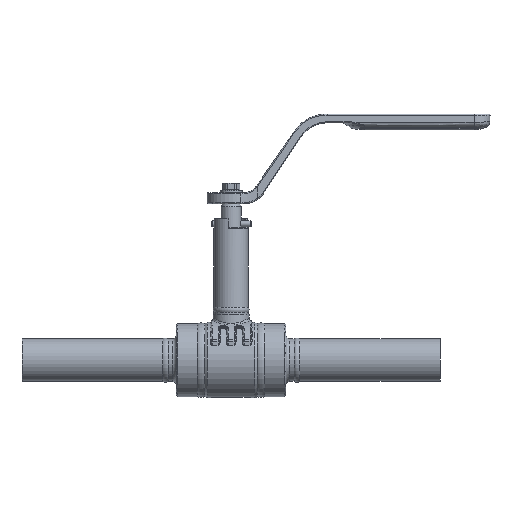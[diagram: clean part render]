
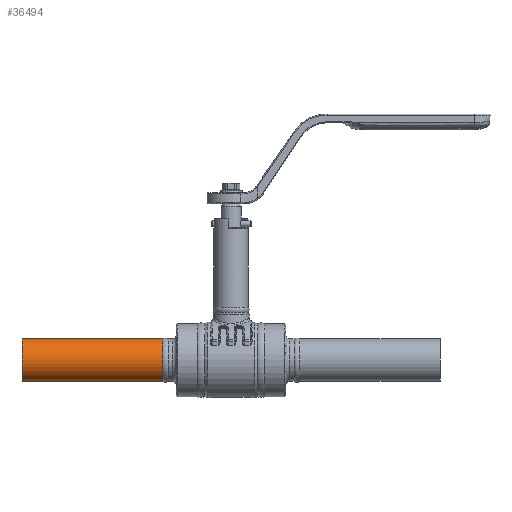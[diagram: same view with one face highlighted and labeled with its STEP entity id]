
A CAD part, front view. The second image highlights one B-rep face of the part: STEP entity #36494.
In plain terms, the highlighted cylindrical face has radius 10.65 mm (diameter 21.3 mm), a partial arc.
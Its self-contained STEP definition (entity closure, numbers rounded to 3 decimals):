
#10698=CARTESIAN_POINT('',(-105.,0.,0.));
#10699=DIRECTION('',(1.,0.,0.));
#10700=DIRECTION('',(0.,0.,1.));
#10701=AXIS2_PLACEMENT_3D('',#10698,#10699,#10700);
#10708=DIRECTION('',(-1.,0.,0.));
#10709=VECTOR('',#10708,70.552);
#10710=CARTESIAN_POINT('',(-34.448,0.,10.65));
#10711=LINE('',#10710,#10709);
#10712=DIRECTION('',(-1.,0.,0.));
#10713=VECTOR('',#10712,70.552);
#10714=CARTESIAN_POINT('',(-34.448,0.,-10.65));
#10715=LINE('',#10714,#10713);
#10754=CARTESIAN_POINT('',(-34.448,0.,0.));
#10755=DIRECTION('',(1.,0.,0.));
#10756=DIRECTION('',(0.,0.,1.));
#10757=AXIS2_PLACEMENT_3D('',#10754,#10755,#10756);
#13036=CARTESIAN_POINT('',(-105.,0.,10.65));
#13037=CARTESIAN_POINT('',(-105.,0.,-10.65));
#13038=VERTEX_POINT('',#13036);
#13039=VERTEX_POINT('',#13037);
#13924=CARTESIAN_POINT('',(-34.448,0.,10.65));
#13925=CARTESIAN_POINT('',(-34.448,0.,-10.65));
#13926=VERTEX_POINT('',#13924);
#13927=VERTEX_POINT('',#13925);
#36483=CARTESIAN_POINT('',(-108.6,0.,0.));
#36484=DIRECTION('',(1.,0.,0.));
#36485=DIRECTION('',(0.,0.,-1.));
#36486=AXIS2_PLACEMENT_3D('',#36483,#36484,#36485);
#36487=CYLINDRICAL_SURFACE('',#36486,10.65);
#36488=ORIENTED_EDGE('',*,*,#36470,.T.);
#36489=ORIENTED_EDGE('',*,*,#36407,.T.);
#36490=ORIENTED_EDGE('',*,*,#36388,.F.);
#36491=ORIENTED_EDGE('',*,*,#36404,.F.);
#36492=EDGE_LOOP('',(#36488,#36489,#36490,#36491));
#36493=FACE_OUTER_BOUND('',#36492,.F.);
#10702=CIRCLE('',#10701,10.65);
#10758=CIRCLE('',#10757,10.65);
#36388=EDGE_CURVE('',#13038,#13039,#10702,.T.);
#36404=EDGE_CURVE('',#13926,#13038,#10711,.T.);
#36407=EDGE_CURVE('',#13927,#13039,#10715,.T.);
#36470=EDGE_CURVE('',#13926,#13927,#10758,.T.);
#36494=ADVANCED_FACE('',(#36493),#36487,.T.);
